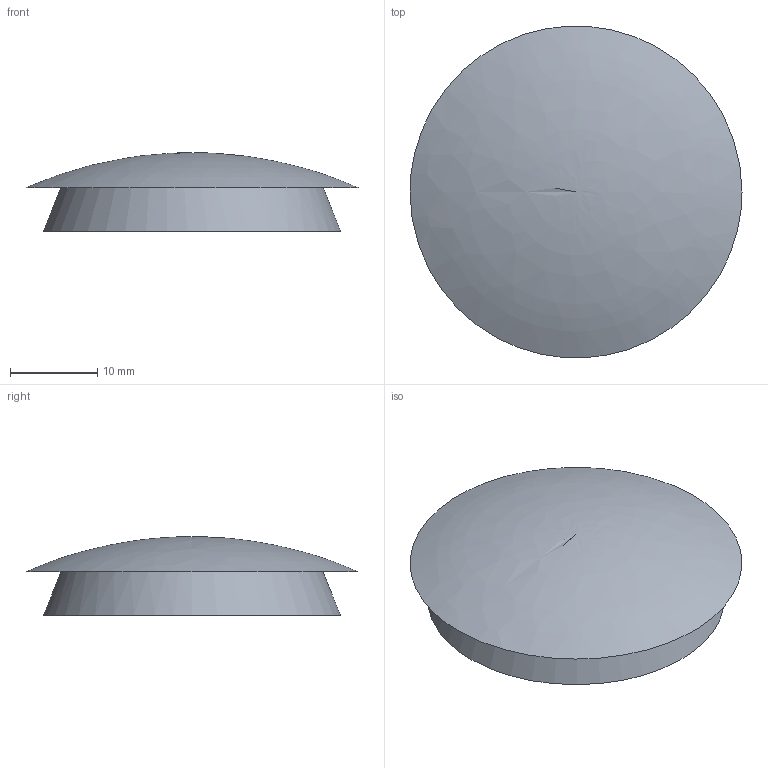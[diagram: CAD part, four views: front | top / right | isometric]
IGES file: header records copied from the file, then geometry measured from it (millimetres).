
Global section: file name: DR_PR3-30; native system: Autodesk Inventor 2015; preprocessor: unknown; author: CH.J; date: 20170922.115446; units: millimetre
Bounding box: 38 x 37.95 x 9 mm (x, y, z)
Volume: 4148.7 mm3; surface area: 3467.5 mm2
Topology: 1 solids, 1 shells, 6 faces, 12 edges, 9 vertices
Faces by surface type: bspline 6
